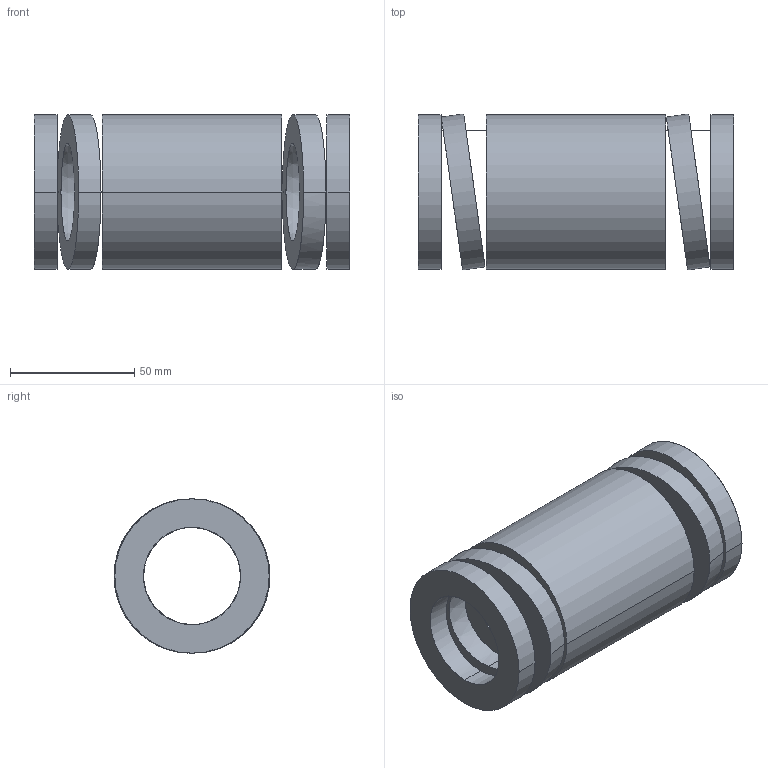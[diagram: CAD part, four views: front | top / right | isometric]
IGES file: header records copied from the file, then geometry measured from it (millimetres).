
Start section: START RECORD GO HERE.
Global section: file name: 392-B63-127.igs; native system: DASSAULT SYSTEMES CATIA V5 R20 - www.3ds.com; preprocessor: CATIA Version 5 Release 20 ; author: Utente; organization: NB04-ASUS; date: 20210813.135702; units: millimetre
Bounding box: 127 x 62.86 x 62.2 mm (x, y, z)
Surface area: 53004.6 mm2 (no closed solid volume)
Topology: 0 solids, 0 shells, 38 faces, 184 edges, 184 vertices
Faces by surface type: revolution 28, plane 10
